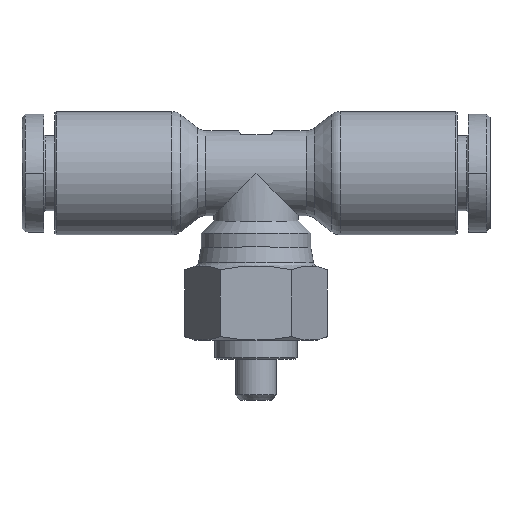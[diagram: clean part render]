
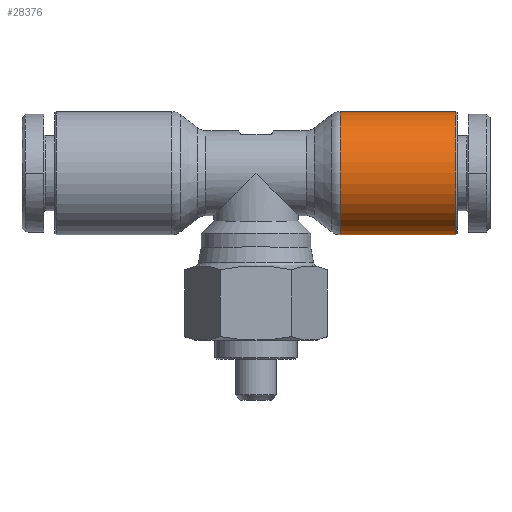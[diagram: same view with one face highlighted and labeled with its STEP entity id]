
A CAD part, top view. The second image highlights one B-rep face of the part: STEP entity #28376.
In plain terms, the highlighted cylindrical face has radius 4.5 mm (diameter 9 mm), a partial arc.
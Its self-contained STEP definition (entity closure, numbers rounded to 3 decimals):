
#517=CARTESIAN_POINT('',(-9.5,0.,4.5));
#518=VERTEX_POINT('',#517);
#519=CARTESIAN_POINT('',(-1.043,0.,4.5));
#520=VERTEX_POINT('',#519);
#521=CARTESIAN_POINT('',(-9.5,0.,4.5));
#522=DIRECTION('',(1.0,0.0,0.0));
#523=VECTOR('',#522,8.457);
#524=LINE('',#521,#523);
#525=EDGE_CURVE('',#518,#520,#524,.T.);
#527=CARTESIAN_POINT('',(-9.5,0.,-4.5));
#528=VERTEX_POINT('',#527);
#536=CARTESIAN_POINT('',(-1.043,0.,-4.5));
#537=VERTEX_POINT('',#536);
#538=CARTESIAN_POINT('',(-1.043,0.,-4.5));
#539=DIRECTION('',(-1.0,0.0,0.0));
#540=VECTOR('',#539,8.457);
#541=LINE('',#538,#540);
#542=EDGE_CURVE('',#537,#528,#541,.T.);
#598=CARTESIAN_POINT('',(-1.043,0.,0.0));
#599=DIRECTION('',(1.0,0.0,0.0));
#600=DIRECTION('',(0.0,0.0,-1.0));
#601=AXIS2_PLACEMENT_3D('',#598,#599,#600);
#602=CIRCLE('',#601,4.5);
#603=EDGE_CURVE('',#537,#520,#602,.T.);
#16193=CARTESIAN_POINT('',(-9.5,0.,0.));
#16194=DIRECTION('',(-1.0,0.0,0.0));
#16195=DIRECTION('',(0.0,0.0,-1.0));
#16196=AXIS2_PLACEMENT_3D('',#16193,#16194,#16195);
#16197=CIRCLE('',#16196,4.5);
#16198=EDGE_CURVE('',#518,#528,#16197,.T.);
#28365=CARTESIAN_POINT('',(-4.55,0.,0.0));
#28366=DIRECTION('',(1.0,0.0,0.0));
#28367=DIRECTION('',(0.0,0.0,1.0));
#28368=AXIS2_PLACEMENT_3D('',#28365,#28366,#28367);
#28369=CYLINDRICAL_SURFACE('',#28368,4.5);
#28370=ORIENTED_EDGE('',*,*,#525,.T.);
#28371=ORIENTED_EDGE('',*,*,#603,.F.);
#28372=ORIENTED_EDGE('',*,*,#542,.T.);
#28373=ORIENTED_EDGE('',*,*,#16198,.F.);
#28374=EDGE_LOOP('',(#28370,#28371,#28372,#28373));
#28375=FACE_OUTER_BOUND('',#28374,.T.);
#28376=ADVANCED_FACE('',(#28375),#28369,.T.);
